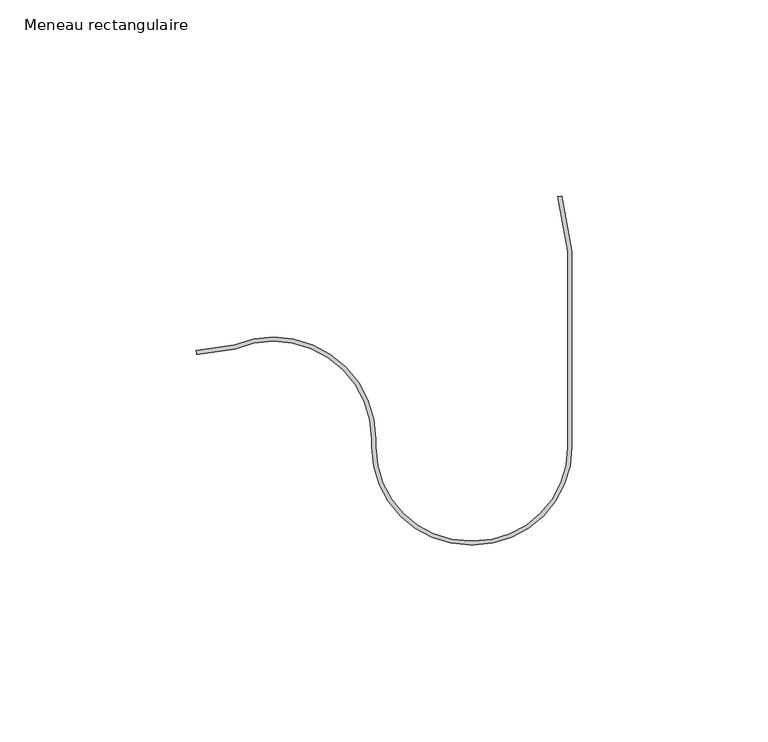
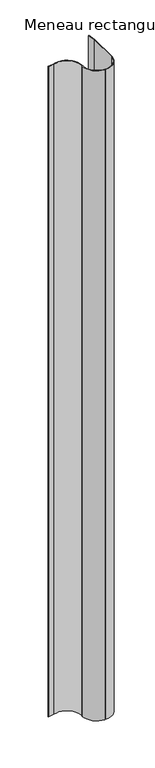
"""IFC4 building model written with IfcOpenShell, lengths in millimetres: member geometry, Meneau rectangulaire : Jonction contre mur Droite V."""

from ifc_helpers import new_model, si_unit, point, frame, frame_2d, origin, place, context, project, spatial, polyline, circle_curve, trimmed, segment, composite_curve, outline, extrude, source, transform, mapped, element, save


def meneau_rectangulaire_f5eb5793(model_context):
    return source(origin(), model_context, "Body", "SweptSolid", [
        extrude(outline(composite_curve([segment(polyline([(-1.0, 26.3569132), (-3.6043568, 40.2231847), (-2.6384309, 40.4046045), (0.0, 26.3569132), (0.0, -23.6430868)]), True, "CONTINUOUS"), segment(trimmed(circle_curve(frame_2d((-25.0, -23.6430868)), 25.0), [point((0.0, -23.6430868))], [point((-25.0, -48.6430868))], False, "CARTESIAN"), True, "CONTINUOUS"), segment(polyline([(-25.0, -48.6430868), (-26.0, -48.6430868)]), True, "CONTINUOUS"), segment(trimmed(circle_curve(frame_2d((-26.0, -23.6430868)), 25.0), [point((-26.0, -48.6430868))], [point((-51.0, -23.6430868))], False, "CARTESIAN"), True, "CONTINUOUS"), segment(polyline([(-51.0, -23.6430868), (-51.0, -21.6218737)]), True, "CONTINUOUS"), segment(trimmed(circle_curve(frame_2d((-76.0, -21.6218737)), 25.0), [point((-51.0, -21.6218737))], [point((-85.7659612, 1.391731))], True, "CARTESIAN"), True, "CONTINUOUS"), segment(polyline([(-85.7659612, 1.391731), (-95.6686418, 0.0), (-95.8078149, 0.9902681), (-86.0341553, 2.3638663)]), True, "CONTINUOUS"), segment(trimmed(circle_curve(frame_2d((-76.0, -21.6218737)), 26.0), [point((-86.0341553, 2.3638663))], [point((-50.0, -21.6218737))], False, "CARTESIAN"), True, "CONTINUOUS"), segment(polyline([(-50.0, -21.6218737), (-50.0, -23.6430868)]), True, "CONTINUOUS"), segment(trimmed(circle_curve(frame_2d((-26.0, -23.6430868)), 24.0), [point((-50.0, -23.6430868))], [point((-26.0, -47.6430868))], True, "CARTESIAN"), True, "CONTINUOUS"), segment(polyline([(-26.0, -47.6430868), (-25.0, -47.6430868)]), True, "CONTINUOUS"), segment(trimmed(circle_curve(frame_2d((-25.0, -23.6430868)), 24.0), [point((-25.0, -47.6430868))], [point((-1.0, -23.6430868))], True, "CARTESIAN"), True, "CONTINUOUS"), segment(polyline([(-1.0, -23.6430868), (-1.0, 26.3569132)]), True, "CONTINUOUS")], self_intersect=False)), frame((0.0, 0.0, -1182.1451617), z_axis=(0.0, 0.0, 1.0), x_axis=(1.0, 0.0, 0.0)), (0.0, 0.0, 1.0), 1182.1451617),
    ])


if __name__ == "__main__":
    model = new_model("IFC4")
    model_context = context("Model", 3, world=origin())
    ifc_project = project(units=[si_unit("LENGTHUNIT", "METRE", prefix="MILLI")], contexts=[model_context])
    site = spatial("IfcSite", under=ifc_project)
    building = spatial("IfcBuilding", under=site)
    placement = place(None, origin())
    meneau_rectangulaire_shape = meneau_rectangulaire_f5eb5793(model_context)
    element("IfcMember", 1, ObjectType="Meneau rectangulaire : Jonction contre mur Droite V", at=placement, inside=building, context=model_context, shape_type="MappedRepresentation", body=[
        mapped(meneau_rectangulaire_shape, transform((0.0, 0.0, 0.0), x_axis=(1.0, 0.0, 0.0), y_axis=(0.0, 1.0, 0.0), z_axis=(0.0, 0.0, 1.0))),
    ])
    save(model, "model.ifc")
